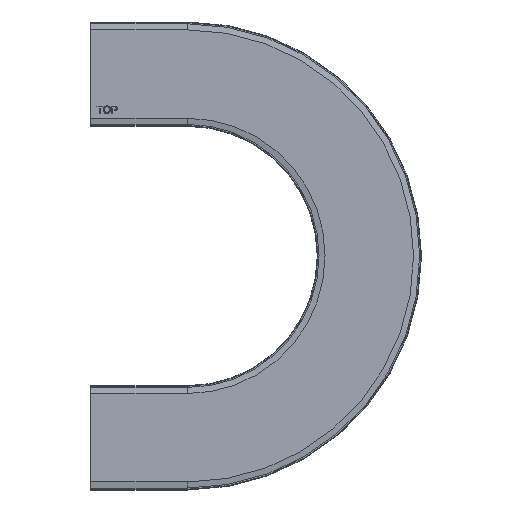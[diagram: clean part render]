
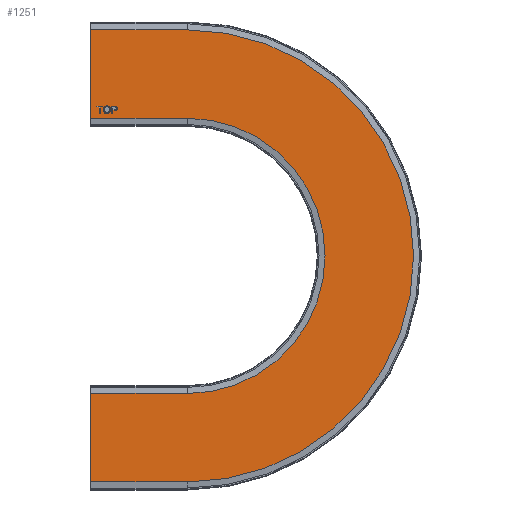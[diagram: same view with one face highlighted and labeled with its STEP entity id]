
A CAD part, top view. The second image highlights one B-rep face of the part: STEP entity #1251.
In plain terms, the highlighted planar face has unit normal (0, 0, 1).
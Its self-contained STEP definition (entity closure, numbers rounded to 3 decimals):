
#243=CARTESIAN_POINT('',(10.621,-29.49,0.0));
#244=VERTEX_POINT('',#243);
#251=CARTESIAN_POINT('',(13.541,-32.563,0.0));
#252=VERTEX_POINT('',#251);
#253=CARTESIAN_POINT('',(13.541,-32.563,0.0));
#254=CARTESIAN_POINT('',(12.676,-32.563,0.0));
#255=CARTESIAN_POINT('',(11.319,-31.731,0.0));
#256=CARTESIAN_POINT('',(10.621,-30.294,0.0));
#257=CARTESIAN_POINT('',(10.621,-29.49,0.0));
#258=QUASI_UNIFORM_CURVE('',2,(#253,#254,#255,#256,#257),.UNSPECIFIED.,.F.,.U.);
#259=EDGE_CURVE('',#252,#244,#258,.T.);
#292=CARTESIAN_POINT('',(16.456,-29.42,0.0));
#293=VERTEX_POINT('',#292);
#294=CARTESIAN_POINT('',(16.456,-29.42,0.0));
#295=CARTESIAN_POINT('',(16.456,-30.346,0.0));
#296=CARTESIAN_POINT('',(15.708,-31.81,0.0));
#297=CARTESIAN_POINT('',(14.331,-32.563,0.0));
#298=CARTESIAN_POINT('',(13.541,-32.563,0.0));
#299=QUASI_UNIFORM_CURVE('',2,(#294,#295,#296,#297,#298),.UNSPECIFIED.,.F.,.U.);
#300=EDGE_CURVE('',#293,#252,#299,.T.);
#333=CARTESIAN_POINT('',(13.541,-26.254,0.0));
#334=VERTEX_POINT('',#333);
#335=CARTESIAN_POINT('',(13.541,-26.254,0.0));
#336=CARTESIAN_POINT('',(14.387,-26.254,0.0));
#337=CARTESIAN_POINT('',(15.745,-27.063,0.0));
#338=CARTESIAN_POINT('',(16.456,-28.504,0.0));
#339=CARTESIAN_POINT('',(16.456,-29.42,0.0));
#340=QUASI_UNIFORM_CURVE('',2,(#335,#336,#337,#338,#339),.UNSPECIFIED.,.F.,.U.);
#341=EDGE_CURVE('',#334,#293,#340,.T.);
#369=CARTESIAN_POINT('',(10.621,-29.49,0.0));
#370=CARTESIAN_POINT('',(10.621,-27.97,0.0));
#371=CARTESIAN_POINT('',(12.253,-26.254,0.0));
#372=CARTESIAN_POINT('',(13.541,-26.254,0.0));
#373=QUASI_UNIFORM_CURVE('',2,(#369,#370,#371,#372),.UNSPECIFIED.,.F.,.U.);
#374=EDGE_CURVE('',#244,#334,#373,.T.);
#413=CARTESIAN_POINT('',(7.208,-32.461,0.0));
#414=VERTEX_POINT('',#413);
#421=CARTESIAN_POINT('',(8.017,-32.461,0.0));
#422=VERTEX_POINT('',#421);
#423=CARTESIAN_POINT('',(8.017,-32.461,0.0));
#424=DIRECTION('',(-1.0,0.0,0.0));
#425=VECTOR('',#424,0.809);
#426=LINE('',#423,#425);
#427=EDGE_CURVE('',#422,#414,#426,.T.);
#452=CARTESIAN_POINT('',(8.017,-27.082,0.0));
#453=VERTEX_POINT('',#452);
#454=CARTESIAN_POINT('',(8.017,-27.082,0.0));
#455=DIRECTION('',(0.0,-1.0,0.0));
#456=VECTOR('',#455,5.379);
#457=LINE('',#454,#456);
#458=EDGE_CURVE('',#453,#422,#457,.T.);
#483=CARTESIAN_POINT('',(10.035,-27.082,0.0));
#484=VERTEX_POINT('',#483);
#485=CARTESIAN_POINT('',(10.035,-27.082,0.0));
#486=DIRECTION('',(-1.0,0.0,0.0));
#487=VECTOR('',#486,2.018);
#488=LINE('',#485,#487);
#489=EDGE_CURVE('',#484,#453,#488,.T.);
#514=CARTESIAN_POINT('',(10.035,-26.361,0.0));
#515=VERTEX_POINT('',#514);
#516=CARTESIAN_POINT('',(10.035,-26.361,0.0));
#517=DIRECTION('',(0.0,-1.0,0.0));
#518=VECTOR('',#517,0.721);
#519=LINE('',#516,#518);
#520=EDGE_CURVE('',#515,#484,#519,.T.);
#545=CARTESIAN_POINT('',(5.2,-26.361,0.0));
#546=VERTEX_POINT('',#545);
#547=CARTESIAN_POINT('',(5.2,-26.361,0.0));
#548=DIRECTION('',(1.0,0.0,0.0));
#549=VECTOR('',#548,4.835);
#550=LINE('',#547,#549);
#551=EDGE_CURVE('',#546,#515,#550,.T.);
#576=CARTESIAN_POINT('',(5.2,-27.082,0.0));
#577=VERTEX_POINT('',#576);
#578=CARTESIAN_POINT('',(5.2,-27.082,0.0));
#579=DIRECTION('',(0.0,1.0,0.0));
#580=VECTOR('',#579,0.721);
#581=LINE('',#578,#580);
#582=EDGE_CURVE('',#577,#546,#581,.T.);
#607=CARTESIAN_POINT('',(7.208,-27.082,0.0));
#608=VERTEX_POINT('',#607);
#609=CARTESIAN_POINT('',(7.208,-27.082,0.0));
#610=DIRECTION('',(-1.0,0.0,0.0));
#611=VECTOR('',#610,2.009);
#612=LINE('',#609,#611);
#613=EDGE_CURVE('',#608,#577,#612,.T.);
#636=CARTESIAN_POINT('',(7.208,-32.461,0.0));
#637=DIRECTION('',(0.0,1.0,0.0));
#638=VECTOR('',#637,5.379);
#639=LINE('',#636,#638);
#640=EDGE_CURVE('',#414,#608,#639,.T.);
#877=CARTESIAN_POINT('',(17.493,-32.461,0.0));
#878=VERTEX_POINT('',#877);
#885=CARTESIAN_POINT('',(18.302,-32.461,0.0));
#886=VERTEX_POINT('',#885);
#887=CARTESIAN_POINT('',(18.302,-32.461,0.0));
#888=DIRECTION('',(-1.0,0.0,0.0));
#889=VECTOR('',#888,0.809);
#890=LINE('',#887,#889);
#891=EDGE_CURVE('',#886,#878,#890,.T.);
#916=CARTESIAN_POINT('',(18.302,-29.983,0.0));
#917=VERTEX_POINT('',#916);
#918=CARTESIAN_POINT('',(18.302,-29.983,0.0));
#919=DIRECTION('',(0.0,-1.0,0.0));
#920=VECTOR('',#919,2.478);
#921=LINE('',#918,#920);
#922=EDGE_CURVE('',#917,#886,#921,.T.);
#947=CARTESIAN_POINT('',(19.869,-29.983,0.0));
#948=VERTEX_POINT('',#947);
#949=CARTESIAN_POINT('',(19.869,-29.983,0.0));
#950=DIRECTION('',(-1.0,0.0,0.0));
#951=VECTOR('',#950,1.567);
#952=LINE('',#949,#951);
#953=EDGE_CURVE('',#948,#917,#952,.T.);
#983=CARTESIAN_POINT('',(22.152,-28.128,0.0));
#984=VERTEX_POINT('',#983);
#985=CARTESIAN_POINT('',(22.152,-28.128,0.0));
#986=CARTESIAN_POINT('',(22.152,-28.904,0.0));
#987=CARTESIAN_POINT('',(21.161,-29.983,0.0));
#988=CARTESIAN_POINT('',(19.869,-29.983,0.0));
#989=QUASI_UNIFORM_CURVE('',2,(#985,#986,#987,#988),.UNSPECIFIED.,.F.,.U.);
#990=EDGE_CURVE('',#984,#948,#989,.T.);
#1023=CARTESIAN_POINT('',(20.724,-26.422,0.0));
#1024=VERTEX_POINT('',#1023);
#1025=CARTESIAN_POINT('',(20.724,-26.422,0.0));
#1026=CARTESIAN_POINT('',(21.175,-26.496,0.0));
#1027=CARTESIAN_POINT('',(21.78,-26.914,0.0));
#1028=CARTESIAN_POINT('',(22.152,-27.672,0.0));
#1029=CARTESIAN_POINT('',(22.152,-28.128,0.0));
#1030=QUASI_UNIFORM_CURVE('',2,(#1025,#1026,#1027,#1028,#1029),.UNSPECIFIED.,.F.,.U.);
#1031=EDGE_CURVE('',#1024,#984,#1030,.T.);
#1058=CARTESIAN_POINT('',(19.794,-26.361,0.0));
#1059=VERTEX_POINT('',#1058);
#1060=CARTESIAN_POINT('',(19.794,-26.361,0.0));
#1061=CARTESIAN_POINT('',(20.403,-26.361,0.0));
#1062=CARTESIAN_POINT('',(20.724,-26.422,0.0));
#1063=QUASI_UNIFORM_CURVE('',2,(#1060,#1061,#1062),.UNSPECIFIED.,.F.,.U.);
#1064=EDGE_CURVE('',#1059,#1024,#1063,.T.);
#1089=CARTESIAN_POINT('',(17.493,-26.361,0.0));
#1090=VERTEX_POINT('',#1089);
#1091=CARTESIAN_POINT('',(17.493,-26.361,0.0));
#1092=DIRECTION('',(1.0,0.0,0.0));
#1093=VECTOR('',#1092,2.301);
#1094=LINE('',#1091,#1093);
#1095=EDGE_CURVE('',#1090,#1059,#1094,.T.);
#1118=CARTESIAN_POINT('',(17.493,-32.461,0.0));
#1119=DIRECTION('',(0.0,1.0,0.0));
#1120=VECTOR('',#1119,6.1);
#1121=LINE('',#1118,#1120);
#1122=EDGE_CURVE('',#878,#1090,#1121,.T.);
#1152=CARTESIAN_POINT('',(0.0,0.0,0.0));
#1153=DIRECTION('',(0.0,0.0,1.0));
#1154=DIRECTION('',(1.0,0.0,0.0));
#1155=AXIS2_PLACEMENT_3D('',#1152,#1153,#1154);
#1156=PLANE('',#1155);
#1157=CARTESIAN_POINT('',(0.0,36.5,0.0));
#1158=VERTEX_POINT('',#1157);
#1159=CARTESIAN_POINT('',(80.0,36.5,0.0));
#1160=VERTEX_POINT('',#1159);
#1161=CARTESIAN_POINT('',(0.0,36.5,0.0));
#1162=DIRECTION('',(1.0,0.0,0.0));
#1163=VECTOR('',#1162,80.0);
#1164=LINE('',#1161,#1163);
#1165=EDGE_CURVE('',#1158,#1160,#1164,.T.);
#1166=ORIENTED_EDGE('',*,*,#1165,.F.);
#1167=CARTESIAN_POINT('',(0.0,-36.5,0.0));
#1168=VERTEX_POINT('',#1167);
#1169=CARTESIAN_POINT('',(0.0,36.5,0.0));
#1170=DIRECTION('',(0.0,-1.0,0.0));
#1171=VECTOR('',#1170,73.0);
#1172=LINE('',#1169,#1171);
#1173=EDGE_CURVE('',#1158,#1168,#1172,.T.);
#1174=ORIENTED_EDGE('',*,*,#1173,.T.);
#1175=CARTESIAN_POINT('',(80.0,-36.5,0.0));
#1176=VERTEX_POINT('',#1175);
#1177=CARTESIAN_POINT('',(0.0,-36.5,0.0));
#1178=DIRECTION('',(1.0,0.0,0.0));
#1179=VECTOR('',#1178,80.0);
#1180=LINE('',#1177,#1179);
#1181=EDGE_CURVE('',#1168,#1176,#1180,.T.);
#1182=ORIENTED_EDGE('',*,*,#1181,.T.);
#1183=CARTESIAN_POINT('',(80.,-263.5,0.0));
#1184=VERTEX_POINT('',#1183);
#1185=CARTESIAN_POINT('',(80.0,-150.0,0.0));
#1186=DIRECTION('',(0.0,0.0,-1.0));
#1187=DIRECTION('',(0.0,1.0,0.0));
#1188=AXIS2_PLACEMENT_3D('',#1185,#1186,#1187);
#1189=CIRCLE('',#1188,113.5);
#1190=EDGE_CURVE('',#1176,#1184,#1189,.T.);
#1191=ORIENTED_EDGE('',*,*,#1190,.T.);
#1192=CARTESIAN_POINT('',(0.,-263.5,0.0));
#1193=VERTEX_POINT('',#1192);
#1194=CARTESIAN_POINT('',(80.,-263.5,0.0));
#1195=DIRECTION('',(-1.0,0.0,0.0));
#1196=VECTOR('',#1195,80.);
#1197=LINE('',#1194,#1196);
#1198=EDGE_CURVE('',#1184,#1193,#1197,.T.);
#1199=ORIENTED_EDGE('',*,*,#1198,.T.);
#1200=CARTESIAN_POINT('',(0.,-336.5,0.0));
#1201=VERTEX_POINT('',#1200);
#1202=CARTESIAN_POINT('',(0.,-263.5,0.));
#1203=DIRECTION('',(0.0,-1.0,0.0));
#1204=VECTOR('',#1203,73.0);
#1205=LINE('',#1202,#1204);
#1206=EDGE_CURVE('',#1193,#1201,#1205,.T.);
#1207=ORIENTED_EDGE('',*,*,#1206,.T.);
#1208=CARTESIAN_POINT('',(80.,-336.5,0.0));
#1209=VERTEX_POINT('',#1208);
#1210=CARTESIAN_POINT('',(80.,-336.5,0.0));
#1211=DIRECTION('',(-1.0,0.0,0.0));
#1212=VECTOR('',#1211,80.);
#1213=LINE('',#1210,#1212);
#1214=EDGE_CURVE('',#1209,#1201,#1213,.T.);
#1215=ORIENTED_EDGE('',*,*,#1214,.F.);
#1216=CARTESIAN_POINT('',(80.0,-150.0,0.0));
#1217=DIRECTION('',(0.0,0.0,-1.0));
#1218=DIRECTION('',(0.0,1.0,0.0));
#1219=AXIS2_PLACEMENT_3D('',#1216,#1217,#1218);
#1220=CIRCLE('',#1219,186.5);
#1221=EDGE_CURVE('',#1160,#1209,#1220,.T.);
#1222=ORIENTED_EDGE('',*,*,#1221,.F.);
#1223=EDGE_LOOP('',(#1166,#1174,#1182,#1191,#1199,#1207,#1215,#1222));
#1224=FACE_OUTER_BOUND('',#1223,.T.);
#1225=ORIENTED_EDGE('',*,*,#259,.T.);
#1226=ORIENTED_EDGE('',*,*,#374,.T.);
#1227=ORIENTED_EDGE('',*,*,#341,.T.);
#1228=ORIENTED_EDGE('',*,*,#300,.T.);
#1229=EDGE_LOOP('',(#1225,#1226,#1227,#1228));
#1230=FACE_BOUND('',#1229,.T.);
#1231=ORIENTED_EDGE('',*,*,#427,.T.);
#1232=ORIENTED_EDGE('',*,*,#640,.T.);
#1233=ORIENTED_EDGE('',*,*,#613,.T.);
#1234=ORIENTED_EDGE('',*,*,#582,.T.);
#1235=ORIENTED_EDGE('',*,*,#551,.T.);
#1236=ORIENTED_EDGE('',*,*,#520,.T.);
#1237=ORIENTED_EDGE('',*,*,#489,.T.);
#1238=ORIENTED_EDGE('',*,*,#458,.T.);
#1239=EDGE_LOOP('',(#1231,#1232,#1233,#1234,#1235,#1236,#1237,#1238));
#1240=FACE_BOUND('',#1239,.T.);
#1241=ORIENTED_EDGE('',*,*,#891,.T.);
#1242=ORIENTED_EDGE('',*,*,#1122,.T.);
#1243=ORIENTED_EDGE('',*,*,#1095,.T.);
#1244=ORIENTED_EDGE('',*,*,#1064,.T.);
#1245=ORIENTED_EDGE('',*,*,#1031,.T.);
#1246=ORIENTED_EDGE('',*,*,#990,.T.);
#1247=ORIENTED_EDGE('',*,*,#953,.T.);
#1248=ORIENTED_EDGE('',*,*,#922,.T.);
#1249=EDGE_LOOP('',(#1241,#1242,#1243,#1244,#1245,#1246,#1247,#1248));
#1250=FACE_BOUND('',#1249,.T.);
#1251=ADVANCED_FACE('',(#1224,#1230,#1240,#1250),#1156,.T.);
